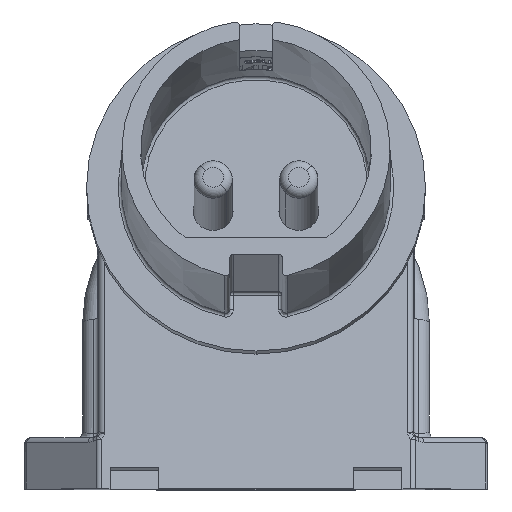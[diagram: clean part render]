
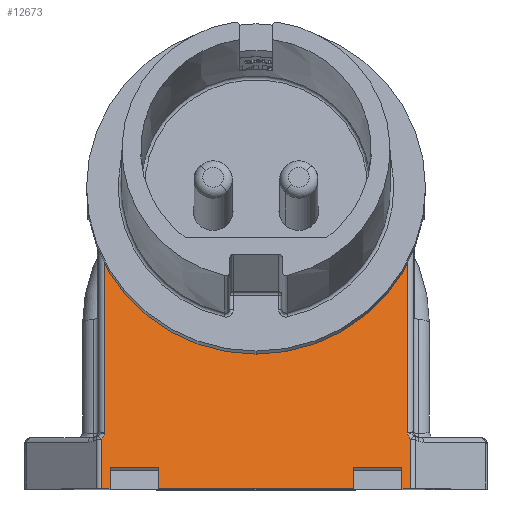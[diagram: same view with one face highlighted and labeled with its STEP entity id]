
A CAD part, top view. The second image highlights one B-rep face of the part: STEP entity #12673.
In plain terms, the highlighted planar face has unit normal (0, 0.259, 0.966).
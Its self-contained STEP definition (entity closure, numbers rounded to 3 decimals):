
#823=DIRECTION('',(1.,0.,0.));
#824=VECTOR('',#823,0.852);
#825=CARTESIAN_POINT('',(-23.5,46.,82.674));
#826=LINE('2352',#825,#824);
#827=CARTESIAN_POINT('',(0.,46.,82.674));
#828=DIRECTION('',(0.,-0.259,-0.966));
#829=DIRECTION('',(1.,0.,0.));
#830=AXIS2_PLACEMENT_3D('',#827,#828,#829);
#832=DIRECTION('',(1.,0.,0.));
#833=VECTOR('',#832,0.852);
#834=CARTESIAN_POINT('',(22.648,46.,82.674));
#835=LINE('2353',#834,#833);
#836=DIRECTION('',(0.,-0.966,0.259));
#837=VECTOR('',#836,38.573);
#838=CARTESIAN_POINT('',(23.5,46.,82.674));
#839=LINE('2387',#838,#837);
#840=CARTESIAN_POINT('',(23.5,8.741,92.658));
#841=CARTESIAN_POINT('',(23.505,8.709,92.666));
#842=CARTESIAN_POINT('',(23.52,8.642,92.684));
#843=CARTESIAN_POINT('',(23.552,8.535,92.713));
#844=CARTESIAN_POINT('',(23.598,8.42,92.744));
#845=CARTESIAN_POINT('',(23.658,8.3,92.776));
#846=CARTESIAN_POINT('',(23.734,8.173,92.81));
#847=CARTESIAN_POINT('',(23.829,8.042,92.845));
#848=CARTESIAN_POINT('',(23.947,7.908,92.881));
#849=CARTESIAN_POINT('',(24.043,7.818,92.905));
#850=CARTESIAN_POINT('',(24.096,7.773,92.917));
#852=DIRECTION('',(-1.,0.,0.));
#853=VECTOR('',#852,1.396);
#854=CARTESIAN_POINT('',(24.096,0.,95.));
#855=LINE('871',#854,#853);
#856=DIRECTION('',(0.,0.966,-0.259));
#857=VECTOR('',#856,3.5);
#858=CARTESIAN_POINT('',(22.7,0.,95.));
#859=LINE('787',#858,#857);
#860=DIRECTION('',(1.,0.,0.));
#861=VECTOR('',#860,7.5);
#862=CARTESIAN_POINT('',(15.2,3.381,94.094));
#863=LINE('786',#862,#861);
#864=DIRECTION('',(0.,0.966,-0.259));
#865=VECTOR('',#864,3.5);
#866=CARTESIAN_POINT('',(15.2,0.,95.));
#867=LINE('785',#866,#865);
#868=DIRECTION('',(-1.,0.,0.));
#869=VECTOR('',#868,30.4);
#870=CARTESIAN_POINT('',(15.2,0.,95.));
#871=LINE('795',#870,#869);
#872=DIRECTION('',(0.,0.966,-0.259));
#873=VECTOR('',#872,3.5);
#874=CARTESIAN_POINT('',(-15.2,0.,95.));
#875=LINE('790',#874,#873);
#876=DIRECTION('',(1.,0.,0.));
#877=VECTOR('',#876,7.5);
#878=CARTESIAN_POINT('',(-22.7,3.381,94.094));
#879=LINE('789',#878,#877);
#880=DIRECTION('',(0.,0.966,-0.259));
#881=VECTOR('',#880,3.5);
#882=CARTESIAN_POINT('',(-22.7,0.,95.));
#883=LINE('788',#882,#881);
#884=DIRECTION('',(-1.,0.,0.));
#885=VECTOR('',#884,1.396);
#886=CARTESIAN_POINT('',(-22.7,0.,95.));
#887=LINE('872',#886,#885);
#888=CARTESIAN_POINT('',(-24.096,7.773,92.917));
#889=CARTESIAN_POINT('',(-24.018,7.839,92.9));
#890=CARTESIAN_POINT('',(-23.882,7.973,92.864));
#891=CARTESIAN_POINT('',(-23.728,8.177,92.809));
#892=CARTESIAN_POINT('',(-23.615,8.376,92.756));
#893=CARTESIAN_POINT('',(-23.539,8.566,92.705));
#894=CARTESIAN_POINT('',(-23.509,8.684,92.673));
#895=CARTESIAN_POINT('',(-23.5,8.741,92.658));
#897=DIRECTION('',(0.,-0.966,0.259));
#898=VECTOR('',#897,38.573);
#899=CARTESIAN_POINT('',(-23.5,46.,82.674));
#900=LINE('2388',#899,#898);
#997=DIRECTION('',(0.,-0.966,0.259));
#998=VECTOR('',#997,8.047);
#999=CARTESIAN_POINT('',(-24.096,7.773,92.917));
#1000=LINE('932',#999,#998);
#1042=CARTESIAN_POINT('',(-24.096,0.,95.));
#1070=CARTESIAN_POINT('',(24.096,0.,95.));
#2178=CARTESIAN_POINT('',(24.096,7.773,92.917));
#2189=DIRECTION('',(0.,0.966,-0.259));
#2190=VECTOR('',#2189,8.047);
#2191=CARTESIAN_POINT('',(24.096,0.,95.));
#2192=LINE('933',#2191,#2190);
#2212=CARTESIAN_POINT('',(23.5,8.741,92.658));
#10498=CARTESIAN_POINT('',(15.2,0.,95.));
#10500=VERTEX_POINT('',#10498);
#10502=CARTESIAN_POINT('',(-15.2,0.,95.));
#10504=VERTEX_POINT('',#10502);
#10506=CARTESIAN_POINT('',(15.2,3.381,94.094));
#10507=VERTEX_POINT('',#10506);
#10508=CARTESIAN_POINT('',(22.7,3.381,94.094));
#10509=VERTEX_POINT('',#10508);
#10510=CARTESIAN_POINT('',(22.7,0.,95.));
#10511=VERTEX_POINT('',#10510);
#10512=CARTESIAN_POINT('',(-22.7,0.,95.));
#10513=CARTESIAN_POINT('',(-22.7,3.381,94.094));
#10514=VERTEX_POINT('',#10512);
#10515=VERTEX_POINT('',#10513);
#10516=CARTESIAN_POINT('',(-15.2,3.381,94.094));
#10517=VERTEX_POINT('',#10516);
#10608=VERTEX_POINT('',#1070);
#10609=VERTEX_POINT('',#1042);
#10610=VERTEX_POINT('',#888);
#10611=VERTEX_POINT('',#895);
#10660=VERTEX_POINT('',#2178);
#10661=VERTEX_POINT('',#2212);
#12031=CARTESIAN_POINT('',(-23.5,46.,82.674));
#12032=CARTESIAN_POINT('',(-22.648,46.,82.674));
#12033=VERTEX_POINT('',#12031);
#12034=VERTEX_POINT('',#12032);
#12035=CARTESIAN_POINT('',(22.648,46.,82.674));
#12036=CARTESIAN_POINT('',(23.5,46.,82.674));
#12037=VERTEX_POINT('',#12035);
#12038=VERTEX_POINT('',#12036);
#12631=CARTESIAN_POINT('',(-24.5,46.,82.674));
#12632=DIRECTION('',(0.,0.259,0.966));
#12633=DIRECTION('',(1.,0.,0.));
#12634=AXIS2_PLACEMENT_3D('',#12631,#12632,#12633);
#12635=PLANE('38',#12634);
#12637=ORIENTED_EDGE('2352',*,*,#12636,.T.);
#12639=ORIENTED_EDGE('2393',*,*,#12638,.F.);
#12640=ORIENTED_EDGE('2353',*,*,#12599,.T.);
#12642=ORIENTED_EDGE('2387',*,*,#12641,.T.);
#12644=ORIENTED_EDGE('912',*,*,#12643,.T.);
#12646=ORIENTED_EDGE('933',*,*,#12645,.F.);
#12648=ORIENTED_EDGE('871',*,*,#12647,.T.);
#12650=ORIENTED_EDGE('787',*,*,#12649,.T.);
#12652=ORIENTED_EDGE('786',*,*,#12651,.F.);
#12654=ORIENTED_EDGE('785',*,*,#12653,.F.);
#12656=ORIENTED_EDGE('795',*,*,#12655,.T.);
#12658=ORIENTED_EDGE('790',*,*,#12657,.T.);
#12660=ORIENTED_EDGE('789',*,*,#12659,.F.);
#12662=ORIENTED_EDGE('788',*,*,#12661,.F.);
#12664=ORIENTED_EDGE('872',*,*,#12663,.T.);
#12666=ORIENTED_EDGE('932',*,*,#12665,.F.);
#12668=ORIENTED_EDGE('873',*,*,#12667,.T.);
#12670=ORIENTED_EDGE('2388',*,*,#12669,.F.);
#12671=EDGE_LOOP('38',(#12637,#12639,#12640,#12642,#12644,#12646,#12648,#12650,
#12652,#12654,#12656,#12658,#12660,#12662,#12664,#12666,#12668,#12670));
#12672=FACE_OUTER_BOUND('38',#12671,.F.);
#831=CIRCLE('2393',#830,22.648);
#851=B_SPLINE_CURVE_WITH_KNOTS('912',3,(#840,#841,#842,#843,#844,#845,#846,#847,
#848,#849,#850),.UNSPECIFIED.,.F.,.F.,(4,1,1,1,1,1,1,1,4),(0.,0.125,0.25,
0.375,0.5,0.625,0.75,0.875,1.),.UNSPECIFIED.);
#896=B_SPLINE_CURVE_WITH_KNOTS('873',3,(#888,#889,#890,#891,#892,#893,#894,
#895),.UNSPECIFIED.,.F.,.F.,(4,1,1,1,1,4),(0.,0.2,0.4,0.6,0.8,1.),
.UNSPECIFIED.);
#12599=EDGE_CURVE('2353',#12037,#12038,#835,.T.);
#12636=EDGE_CURVE('2352',#12033,#12034,#826,.T.);
#12638=EDGE_CURVE('2393',#12037,#12034,#831,.T.);
#12641=EDGE_CURVE('2387',#12038,#10661,#839,.T.);
#12643=EDGE_CURVE('912',#10661,#10660,#851,.T.);
#12645=EDGE_CURVE('933',#10608,#10660,#2192,.T.);
#12647=EDGE_CURVE('871',#10608,#10511,#855,.T.);
#12649=EDGE_CURVE('787',#10511,#10509,#859,.T.);
#12651=EDGE_CURVE('786',#10507,#10509,#863,.T.);
#12653=EDGE_CURVE('785',#10500,#10507,#867,.T.);
#12655=EDGE_CURVE('795',#10500,#10504,#871,.T.);
#12657=EDGE_CURVE('790',#10504,#10517,#875,.T.);
#12659=EDGE_CURVE('789',#10515,#10517,#879,.T.);
#12661=EDGE_CURVE('788',#10514,#10515,#883,.T.);
#12663=EDGE_CURVE('872',#10514,#10609,#887,.T.);
#12665=EDGE_CURVE('932',#10610,#10609,#1000,.T.);
#12667=EDGE_CURVE('873',#10610,#10611,#896,.T.);
#12669=EDGE_CURVE('2388',#12033,#10611,#900,.T.);
#12673=ADVANCED_FACE('38',(#12672),#12635,.T.);
